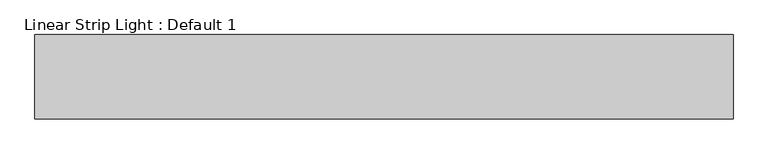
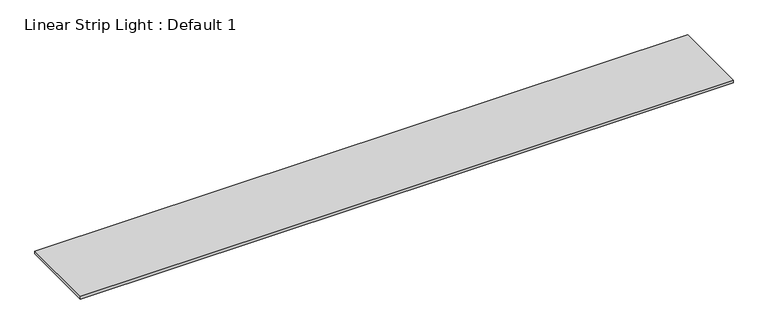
"""IFC4 building model written with IfcOpenShell, lengths in millimetres: light fixture geometry, Linear Strip Light : Default 1."""

from ifc_helpers import new_model, si_unit, frame, origin, place, context, project, spatial, polyline, outline, extrude, source, transform, mapped, element, save


def linear_strip_light_default_1_7d063154(model_context):
    return source(origin(), model_context, "Body", "SweptSolid", [
        extrude(outline(polyline([(759.0, 20.9948392), (759.0, -125.4051608), (-454.2, -125.4051608), (-454.2, 20.9948392), (759.0, 20.9948392)])), frame((0.0, 0.0, 2472.9317407), z_axis=(0.0, 0.0, 1.0), x_axis=(1.0, 0.0, 0.0)), (0.0, 0.0, 1.0), 5.4682593),
    ])


if __name__ == "__main__":
    model = new_model("IFC4")
    model_context = context("Model", 3, world=origin())
    ifc_project = project(units=[si_unit("LENGTHUNIT", "METRE", prefix="MILLI")], contexts=[model_context])
    site = spatial("IfcSite", under=ifc_project)
    building = spatial("IfcBuilding", under=site)
    placement = place(None, origin())
    linear_strip_light_default_1_shape = linear_strip_light_default_1_7d063154(model_context)
    element("IfcLightFixture", 1, ObjectType="Linear Strip Light : Default 1", at=placement, inside=building, context=model_context, shape_type="MappedRepresentation", body=[
        mapped(linear_strip_light_default_1_shape, transform((0.0, 0.0, 0.0), x_axis=(1.0, 0.0, 0.0), y_axis=(0.0, 1.0, 0.0), z_axis=(0.0, 0.0, 1.0))),
    ])
    save(model, "model.ifc")
